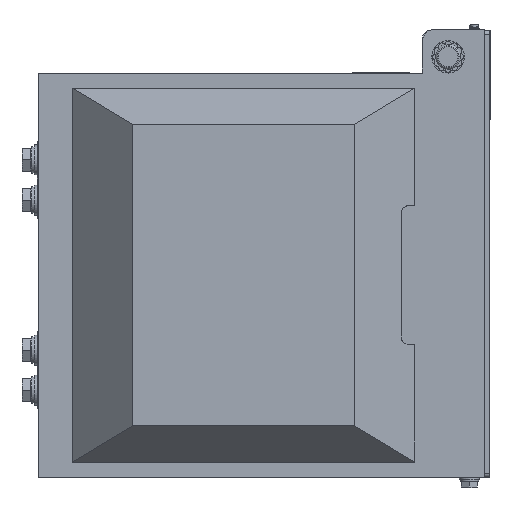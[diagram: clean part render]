
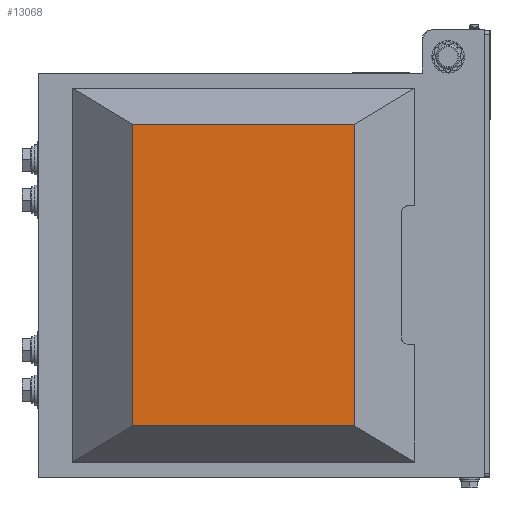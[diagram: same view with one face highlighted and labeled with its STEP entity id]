
A CAD part, left-side view. The second image highlights one B-rep face of the part: STEP entity #13068.
In plain terms, the highlighted planar face has unit normal (-1, 0, 0).
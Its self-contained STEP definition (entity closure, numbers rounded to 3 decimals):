
#1990 = CARTESIAN_POINT ( 'NONE',  ( -100., -74.5, -120.5 ) ) ;
#2069 = VECTOR ( 'NONE', #7529, 1000. ) ;
#4770 = AXIS2_PLACEMENT_3D ( 'NONE', #23040, #7850, #25594 ) ;
#5161 = CARTESIAN_POINT ( 'NONE',  ( -100., 103.5, 120.5 ) ) ;
#5187 = PLANE ( 'NONE',  #4770 ) ;
#5577 = EDGE_CURVE ( 'NONE', #31890, #22761, #23181, .T. ) ;
#7529 = DIRECTION ( 'NONE',  ( 0., 0., 1. ) ) ;
#7850 = DIRECTION ( 'NONE',  ( -1., 0., 0. ) ) ;
#11064 = EDGE_CURVE ( 'NONE', #22918, #29722, #30945, .T. ) ;
#11878 = CARTESIAN_POINT ( 'NONE',  ( -100., -74.5, 120.5 ) ) ;
#12769 = LINE ( 'NONE', #31987, #25482 ) ;
#13068 = ADVANCED_FACE ( 'NONE', ( #25728 ), #5187, .T. ) ;
#14319 = CARTESIAN_POINT ( 'NONE',  ( -100., 103.5, 120.5 ) ) ;
#15541 = LINE ( 'NONE', #22718, #2069 ) ;
#16590 = EDGE_CURVE ( 'NONE', #22761, #22918, #12769, .T. ) ;
#16798 = EDGE_CURVE ( 'NONE', #29722, #31890, #15541, .T. ) ;
#19566 = DIRECTION ( 'NONE',  ( 0., 1., 0. ) ) ;
#19745 = DIRECTION ( 'NONE',  ( 0., -1., 0. ) ) ;
#22533 = ORIENTED_EDGE ( 'NONE', *, *, #16798, .T. ) ;
#22718 = CARTESIAN_POINT ( 'NONE',  ( -100., -74.5, 149.5 ) ) ;
#22761 = VERTEX_POINT ( 'NONE', #5161 ) ;
#22918 = VERTEX_POINT ( 'NONE', #28571 ) ;
#22957 = EDGE_LOOP ( 'NONE', ( #30616, #29085, #22533, #28877 ) ) ;
#23040 = CARTESIAN_POINT ( 'NONE',  ( -100., -122.5, -149.5 ) ) ;
#23181 = LINE ( 'NONE', #14319, #29163 ) ;
#25004 = VECTOR ( 'NONE', #19745, 1000. ) ;
#25482 = VECTOR ( 'NONE', #26854, 1000. ) ;
#25594 = DIRECTION ( 'NONE',  ( 0., 0., 1. ) ) ;
#25728 = FACE_OUTER_BOUND ( 'NONE', #22957, .T. ) ;
#26854 = DIRECTION ( 'NONE',  ( 0., 0., -1. ) ) ;
#28571 = CARTESIAN_POINT ( 'NONE',  ( -100., 103.5, -120.5 ) ) ;
#28877 = ORIENTED_EDGE ( 'NONE', *, *, #5577, .T. ) ;
#29085 = ORIENTED_EDGE ( 'NONE', *, *, #11064, .T. ) ;
#29163 = VECTOR ( 'NONE', #19566, 1000. ) ;
#29316 = CARTESIAN_POINT ( 'NONE',  ( -100., -74.5, -120.5 ) ) ;
#29722 = VERTEX_POINT ( 'NONE', #29316 ) ;
#30616 = ORIENTED_EDGE ( 'NONE', *, *, #16590, .T. ) ;
#30945 = LINE ( 'NONE', #1990, #25004 ) ;
#31890 = VERTEX_POINT ( 'NONE', #11878 ) ;
#31987 = CARTESIAN_POINT ( 'NONE',  ( -100., 103.5, -149.5 ) ) ;
